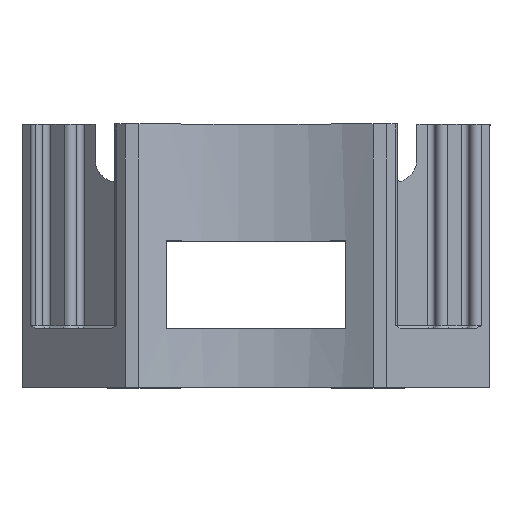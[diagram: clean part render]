
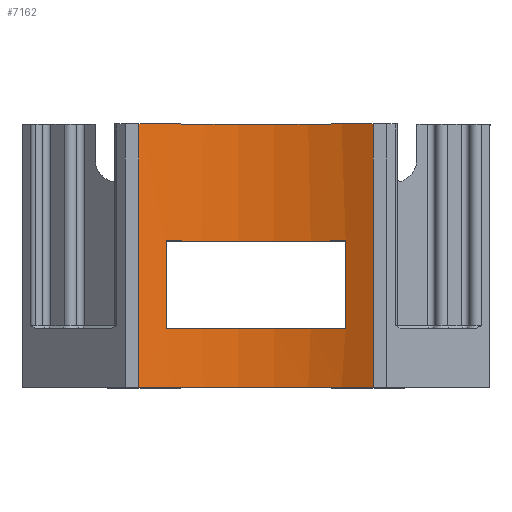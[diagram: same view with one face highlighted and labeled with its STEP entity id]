
A CAD part, top view. The second image highlights one B-rep face of the part: STEP entity #7162.
In plain terms, the highlighted cylindrical face has radius 39.114 mm (diameter 78.227 mm), a partial arc.
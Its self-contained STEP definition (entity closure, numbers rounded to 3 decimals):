
#205 = CARTESIAN_POINT ( 'NONE',  ( -15.322, 0., 37.626 ) ) ;
#221 = ORIENTED_EDGE ( 'NONE', *, *, #5523, .T. ) ;
#339 = DIRECTION ( 'NONE',  ( 0., 1., 0. ) ) ;
#431 = DIRECTION ( 'NONE',  ( 0., 0., 1. ) ) ;
#457 = CARTESIAN_POINT ( 'NONE',  ( 20., 0., 40. ) ) ;
#501 = EDGE_CURVE ( 'NONE', #1902, #5960, #4702, .T. ) ;
#635 = CARTESIAN_POINT ( 'NONE',  ( 0., 45., 73.614 ) ) ;
#715 = AXIS2_PLACEMENT_3D ( 'NONE', #8218, #2215, #3605 ) ;
#855 = CARTESIAN_POINT ( 'NONE',  ( 20., 45., 40. ) ) ;
#943 = FACE_OUTER_BOUND ( 'NONE', #7682, .T. ) ;
#1099 = CARTESIAN_POINT ( 'NONE',  ( 0., 25., 73.614 ) ) ;
#1103 = DIRECTION ( 'NONE',  ( 0., 0., -1. ) ) ;
#1142 = CIRCLE ( 'NONE', #8129, 39.114 ) ;
#1421 = DIRECTION ( 'NONE',  ( 0., 1., 0. ) ) ;
#1432 = EDGE_CURVE ( 'NONE', #4664, #4607, #5235, .T. ) ;
#1526 = CARTESIAN_POINT ( 'NONE',  ( 0., 0., 73.614 ) ) ;
#1656 = VECTOR ( 'NONE', #6253, 1000. ) ;
#1800 = EDGE_CURVE ( 'NONE', #3296, #1902, #8311, .T. ) ;
#1826 = CARTESIAN_POINT ( 'NONE',  ( -15.322, 10., 37.626 ) ) ;
#1864 = EDGE_CURVE ( 'NONE', #4197, #4664, #2456, .T. ) ;
#1902 = VERTEX_POINT ( 'NONE', #2270 ) ;
#2042 = ORIENTED_EDGE ( 'NONE', *, *, #6831, .T. ) ;
#2171 = CARTESIAN_POINT ( 'NONE',  ( -20., 0., 40. ) ) ;
#2215 = DIRECTION ( 'NONE',  ( 0., 1., 0. ) ) ;
#2270 = CARTESIAN_POINT ( 'NONE',  ( -15.322, 25., 37.626 ) ) ;
#2302 = ORIENTED_EDGE ( 'NONE', *, *, #7264, .T. ) ;
#2432 = LINE ( 'NONE', #457, #5599 ) ;
#2456 = CIRCLE ( 'NONE', #3010, 39.114 ) ;
#2601 = DIRECTION ( 'NONE',  ( 0., 0., -1. ) ) ;
#2730 = DIRECTION ( 'NONE',  ( 0., 1., 0. ) ) ;
#2870 = VECTOR ( 'NONE', #339, 1000. ) ;
#3010 = AXIS2_PLACEMENT_3D ( 'NONE', #1526, #7569, #7704 ) ;
#3296 = VERTEX_POINT ( 'NONE', #1826 ) ;
#3354 = CARTESIAN_POINT ( 'NONE',  ( -20., 45., 40. ) ) ;
#3390 = VERTEX_POINT ( 'NONE', #855 ) ;
#3562 = AXIS2_PLACEMENT_3D ( 'NONE', #1099, #3760, #431 ) ;
#3568 = VECTOR ( 'NONE', #2730, 1000. ) ;
#3572 = LINE ( 'NONE', #6210, #1656 ) ;
#3605 = DIRECTION ( 'NONE',  ( 0., 0., 1. ) ) ;
#3760 = DIRECTION ( 'NONE',  ( 0., -1., 0. ) ) ;
#3926 = DIRECTION ( 'NONE',  ( 0., 1., 0. ) ) ;
#4197 = VERTEX_POINT ( 'NONE', #4729 ) ;
#4581 = CARTESIAN_POINT ( 'NONE',  ( -20., 0., 40. ) ) ;
#4607 = VERTEX_POINT ( 'NONE', #3354 ) ;
#4664 = VERTEX_POINT ( 'NONE', #2171 ) ;
#4702 = CIRCLE ( 'NONE', #3562, 39.114 ) ;
#4729 = CARTESIAN_POINT ( 'NONE',  ( 20., 0., 40. ) ) ;
#4790 = CARTESIAN_POINT ( 'NONE',  ( 15.322, 10., 37.626 ) ) ;
#4847 = FACE_BOUND ( 'NONE', #7730, .T. ) ;
#5235 = LINE ( 'NONE', #4581, #3568 ) ;
#5523 = EDGE_CURVE ( 'NONE', #5960, #6264, #3572, .T. ) ;
#5599 = VECTOR ( 'NONE', #7783, 1000. ) ;
#5681 = CYLINDRICAL_SURFACE ( 'NONE', #715, 39.114 ) ;
#5748 = CIRCLE ( 'NONE', #8254, 39.114 ) ;
#5749 = CARTESIAN_POINT ( 'NONE',  ( 0., 10., 73.614 ) ) ;
#5960 = VERTEX_POINT ( 'NONE', #7036 ) ;
#6119 = EDGE_CURVE ( 'NONE', #3390, #4607, #5748, .T. ) ;
#6210 = CARTESIAN_POINT ( 'NONE',  ( 15.322, 0., 37.626 ) ) ;
#6253 = DIRECTION ( 'NONE',  ( 0., -1., 0. ) ) ;
#6264 = VERTEX_POINT ( 'NONE', #4790 ) ;
#6278 = ORIENTED_EDGE ( 'NONE', *, *, #1864, .F. ) ;
#6715 = ORIENTED_EDGE ( 'NONE', *, *, #1432, .F. ) ;
#6831 = EDGE_CURVE ( 'NONE', #6264, #3296, #1142, .T. ) ;
#6976 = ORIENTED_EDGE ( 'NONE', *, *, #6119, .T. ) ;
#7036 = CARTESIAN_POINT ( 'NONE',  ( 15.322, 25., 37.626 ) ) ;
#7162 = ADVANCED_FACE ( 'NONE', ( #4847, #943 ), #5681, .F. ) ;
#7264 = EDGE_CURVE ( 'NONE', #4197, #3390, #2432, .T. ) ;
#7569 = DIRECTION ( 'NONE',  ( 0., 1., 0. ) ) ;
#7584 = ORIENTED_EDGE ( 'NONE', *, *, #1800, .T. ) ;
#7682 = EDGE_LOOP ( 'NONE', ( #6976, #6715, #6278, #2302 ) ) ;
#7704 = DIRECTION ( 'NONE',  ( 0., 0., -1. ) ) ;
#7730 = EDGE_LOOP ( 'NONE', ( #2042, #7584, #8163, #221 ) ) ;
#7783 = DIRECTION ( 'NONE',  ( 0., 1., 0. ) ) ;
#8129 = AXIS2_PLACEMENT_3D ( 'NONE', #5749, #3926, #1103 ) ;
#8163 = ORIENTED_EDGE ( 'NONE', *, *, #501, .T. ) ;
#8218 = CARTESIAN_POINT ( 'NONE',  ( 0., 0., 73.614 ) ) ;
#8254 = AXIS2_PLACEMENT_3D ( 'NONE', #635, #1421, #2601 ) ;
#8311 = LINE ( 'NONE', #205, #2870 ) ;
